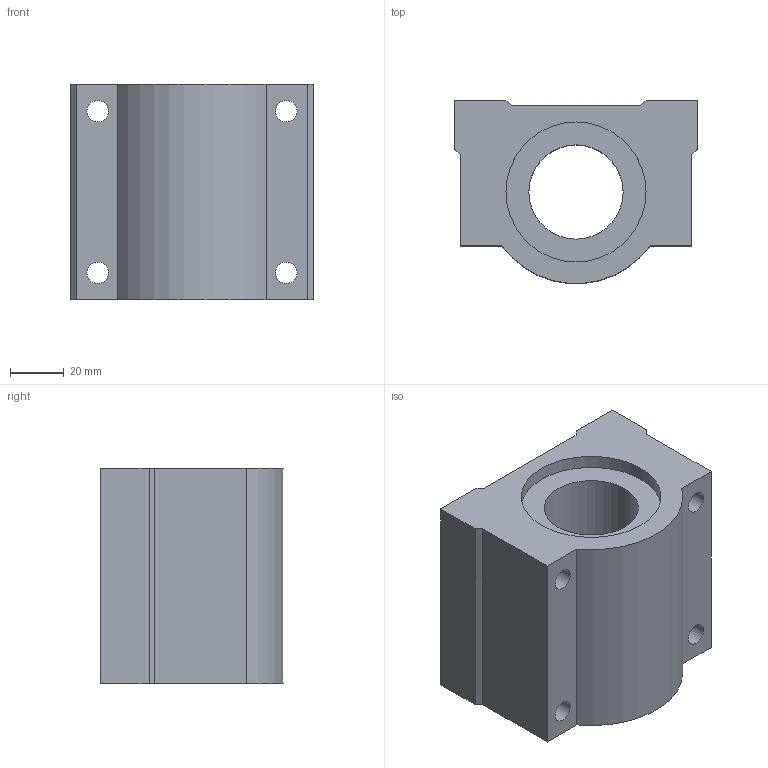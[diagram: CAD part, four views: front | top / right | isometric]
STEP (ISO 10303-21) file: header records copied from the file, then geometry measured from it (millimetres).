
FILE_DESCRIPTION((''),'2;1');
FILE_NAME('C:\Documents and Settings\ｿﾀﾀ蠑ｷ1\ｹﾙﾅﾁ ﾈｭｸ饅\ｺﾎﾇｰﾆﾄﾀﾏ\ﾁｦﾇｰ\SC__UUN\SC35UUN.stp','2005-06-22T15:22:21',('ｿﾀﾀ蠑ｷ1'),(''),'Autodesk Inventor 9','Autodesk Inventor 9','');
FILE_SCHEMA(('AUTOMOTIVE_DESIGN { 1 0 10303 214 1 1 1 1 }'));
Length unit declared in the file: millimetre
Products named in the file (1): SC__UUN
Bounding box: 90 x 67.88 x 80 mm (x, y, z)
Volume: 313274.8 mm3; surface area: 46459.8 mm2
Topology: 1 solids, 1 shells, 32 faces, 84 edges, 56 vertices
Faces by surface type: plane 17, bspline 8, cylinder 7
Entity records: 1145 total; most frequent: CARTESIAN_POINT 309, ORIENTED_EDGE 168, DIRECTION 164, EDGE_CURVE 84, VERTEX_POINT 56, AXIS2_PLACEMENT_3D 55, VECTOR 54, LINE 54
